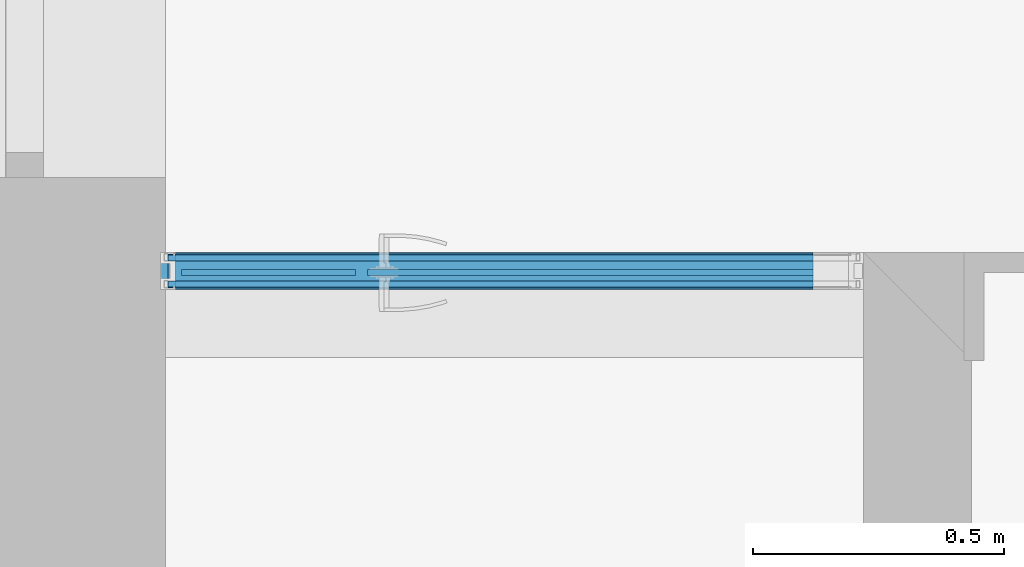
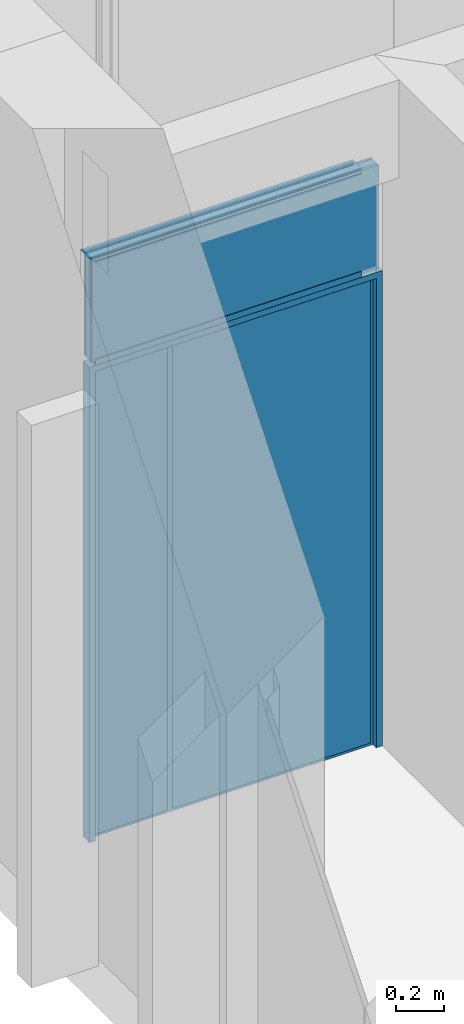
# One storey, part 58 of 89: 8 building element parts, 5 elements without a shape of their own.
"""IFC2X3 building model written with IfcOpenShell, lengths in millimetres."""

from ifc_helpers import new_model, entity, si_unit, converted_unit, derived_unit, money_unit, direction, frame, origin_with_axes, place, context, subcontext, project, spatial, faceted_brep, material, type_object, element, aggregate, save


model = new_model("IFC2X3")

# Units and contexts
model_context = context("Model", 3, precision=0.01, world=origin_with_axes(), true_north=direction((0.0, 1.0)))
body_context = subcontext(model_context, "Body", "Model", "MODEL_VIEW")
ifc_project = project(units=[si_unit("LENGTHUNIT", "METRE", prefix="MILLI"), si_unit("AREAUNIT", "SQUARE_METRE"), si_unit("VOLUMEUNIT", "CUBIC_METRE"), converted_unit("PLANEANGLEUNIT", "DEGREE", entity("IfcPlaneAngleMeasure", 0.0174532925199), si_unit("PLANEANGLEUNIT", "RADIAN"), dimensions=[0, 0, 0, 0, 0, 0, 0]), si_unit("SOLIDANGLEUNIT", "STERADIAN"), money_unit("EUR"), converted_unit("TIMEUNIT", "Year", entity("IfcTimeMeasure", 31556926.0), si_unit("TIMEUNIT", "SECOND"), dimensions=[0, 0, 1, 0, 0, 0, 0]), si_unit("MASSUNIT", "GRAM", prefix="KILO"), si_unit("THERMODYNAMICTEMPERATUREUNIT", "DEGREE_CELSIUS"), si_unit("LUMINOUSINTENSITYUNIT", "LUMEN"), si_unit("ENERGYUNIT", "JOULE", prefix="MEGA"), derived_unit("THERMALCONDUCTANCEUNIT", [(si_unit("POWERUNIT", "WATT"), 1), (si_unit("LENGTHUNIT", "METRE"), -1), (si_unit("THERMODYNAMICTEMPERATUREUNIT", "KELVIN"), -1)]), derived_unit("SPECIFICHEATCAPACITYUNIT", [(si_unit("ENERGYUNIT", "JOULE"), 1), (si_unit("MASSUNIT", "GRAM", prefix="KILO"), -1), (si_unit("THERMODYNAMICTEMPERATUREUNIT", "KELVIN"), -1)]), derived_unit("MASSDENSITYUNIT", [(si_unit("MASSUNIT", "GRAM", prefix="KILO"), 1), (si_unit("VOLUMEUNIT", "CUBIC_METRE"), -1)])], contexts=[model_context])

# Site, building, storey
site_placement = place(None, origin_with_axes())
site = spatial("IfcSite", under=ifc_project, at=site_placement, Name="Puškini 31, Narva", CompositionType="ELEMENT")
building_placement = place(site_placement, origin_with_axes())
building = spatial("IfcBuilding", under=site, at=building_placement, Name="Narva Riigigümnaasium", CompositionType="ELEMENT")
storey_placement = place(building_placement, frame((0.0, 0.0, -3300.0), z_axis=(0.0, 0.0, 1.0), x_axis=(1.0, 0.0, 0.0)))
storey = spatial("IfcBuildingStorey", under=building, at=storey_placement, Name="1.korrus -3.3", CompositionType="ELEMENT", Elevation=-3300.0)

# Curtain wall, plate, building element parts, door, members
curtain_wall_type = type_object("IfcCurtainWallType", Name="Curtain Wall Type", PredefinedType="NOTDEFINED")
curtain_wall_placement = place(storey_placement, frame((38300.0000003, 240678.000001, -3.3467437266e-05), z_axis=(0.0, 0.0, 1.0), x_axis=(1.0, 0.0, 0.0)))
curtain_wall = element("IfcCurtainWall", 1, at=curtain_wall_placement, inside=storey, type_object=curtain_wall_type, Name="G-SKLF-56")
plate_type = type_object("IfcPlateType", Name="Siseklaasfassaad - Klaas-Doubleline30 1285 x 520 x 17", PredefinedType="CURTAIN_PANEL")
plate_placement = place(curtain_wall_placement, frame((0.0, 0.0, 2675.00003347), z_axis=(0.0, 0.0, 1.0), x_axis=(-1.0, 0.0, 0.0)))
plate = element("IfcPlate", 2, at=plate_placement, type_object=plate_type, Name="Panel-Siseklaasf-021", ObjectType="CURTAIN_PANEL")
ifc_material_1 = material(Name="VKR-05_Klaas")
building_element_part_1_placement = place(plate_placement, origin_with_axes())
building_element_part_1 = element("IfcBuildingElementPart", 3, at=building_element_part_1_placement, material=ifc_material_1, Name="VKR-05_Klaas", context=body_context, shape_type="Brep", body=[
    faceted_brep([(-484.99999702, 37.0, 259.999988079), (-484.99999702, 25.0, 259.999988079), (884.99999702, 25.0, 259.999988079), (884.99999702, 37.0, 259.999988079), (-484.99999702, 37.0, -259.99999702), (-484.99999702, 25.0, -259.99999702), (884.99999702, 25.0, -259.99999702), (884.99999702, 37.0, -259.99999702)], [[[0, 1, 2, 3]], [[4, 5, 1, 0]], [[1, 5, 6, 2]], [[3, 2, 6, 7]], [[0, 3, 7, 4]], [[7, 6, 5, 4]]]),
    faceted_brep([(-484.99999702, -15.0, 259.999988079), (-484.99999702, -27.0, 259.999988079), (884.99999702, -27.0, 259.999988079), (884.99999702, -15.0, 259.999988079), (-484.99999702, -15.0, -259.99999702), (-484.99999702, -27.0, -259.99999702), (884.99999702, -27.0, -259.99999702), (884.99999702, -15.0, -259.99999702)], [[[0, 1, 2, 3]], [[4, 5, 1, 0]], [[1, 5, 6, 2]], [[3, 2, 6, 7]], [[0, 3, 7, 4]], [[7, 6, 5, 4]]]),
])
ifc_material_2 = material(Name="Õhkvahe")
building_element_part_2_placement = place(plate_placement, origin_with_axes())
building_element_part_2 = element("IfcBuildingElementPart", 4, at=building_element_part_2_placement, material=ifc_material_2, Name="Õhkvahe", context=body_context, shape_type="Brep", body=[
    faceted_brep([(-484.99999702, 25.0, 259.999988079), (-484.99999702, -15.0, 259.999988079), (884.99999702, -15.0, 259.999988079), (884.99999702, 25.0, 259.999988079), (-484.99999702, 25.0, -259.99999702), (-484.99999702, -15.0, -259.99999702), (884.99999702, -15.0, -259.99999702), (884.99999702, 25.0, -259.99999702)], [[[0, 1, 2, 3]], [[4, 5, 1, 0]], [[1, 5, 6, 2]], [[3, 2, 6, 7]], [[0, 3, 7, 4]], [[7, 6, 5, 4]]]),
])
aggregate(plate, [building_element_part_1, building_element_part_2])
door_style = type_object("IfcDoorStyle", Name="1300 x 2385 x -5", ConstructionType="NOTDEFINED", OperationType="NOTDEFINED", ParameterTakesPrecedence=False, Sizeable=False)
door_placement = place(curtain_wall_placement, frame((0.0, 0.0, 1200.00001673), z_axis=(0.0, 0.0, 1.0), x_axis=(-1.0, 0.0, 0.0)))
door = element("IfcDoor", 5, at=door_placement, type_object=door_style, Name="G-SKLF-59-U1", ObjectType="DOOR")
ifc_material_3 = material(Name="ET-04_Alumiinium")
building_element_part_3_placement = place(door_placement, origin_with_axes())
building_element_part_3 = element("IfcBuildingElementPart", 6, at=building_element_part_3_placement, material=ifc_material_3, Name="ET-04_Alumiinium", context=body_context, shape_type="Brep", body=[
    faceted_brep([(-500.0, 2.5, -1200.00001673), (-500.0, -11.5, -1200.00001673), (-500.0, -11.5, 1200.00001673), (-500.0, 2.5, 1200.00001673), (-462.0, 2.5, -1200.00001673), (-462.0, -11.5, -1200.00001673), (-462.0, -11.5, 1162.00001673), (-462.0, 2.5, 1162.00001673)], [[[0, 1, 2, 3]], [[4, 5, 1, 0]], [[1, 5, 6, 2]], [[3, 2, 6, 7]], [[0, 3, 7, 4]], [[7, 6, 5, 4]]]),
    faceted_brep([(900.0, 2.5, 1200.00001673), (900.0, -11.5, 1200.00001673), (862.0, -11.5, 1162.00001673), (862.0, 2.5, 1162.00001673), (-500.0, 2.5, 1200.00001673), (-500.0, -11.5, 1200.00001673), (-462.0, -11.5, 1162.00001673), (-462.0, 2.5, 1162.00001673)], [[[0, 1, 2, 3]], [[4, 5, 1, 0]], [[1, 5, 6, 2]], [[3, 2, 6, 7]], [[0, 3, 7, 4]], [[7, 6, 5, 4]]]),
    faceted_brep([(900.0, 2.5, -1200.00001673), (900.0, -11.5, -1200.00001673), (862.0, -11.5, -1200.00001673), (862.0, 2.5, -1200.00001673), (900.0, 2.5, 1200.00001673), (900.0, -11.5, 1200.00001673), (862.0, -11.5, 1162.00001673), (862.0, 2.5, 1162.00001673)], [[[0, 1, 2, 3]], [[4, 5, 1, 0]], [[1, 5, 6, 2]], [[3, 2, 6, 7]], [[0, 3, 7, 4]], [[7, 6, 5, 4]]]),
    faceted_brep([(-500.0, 42.5, -1200.00001673), (-500.0, 2.5, -1200.00001673), (-500.0, 2.5, 1200.00001673), (-500.0, 42.5, 1200.00001673), (-470.0, 42.5, -1200.00001673), (-470.0, 2.5, -1200.00001673), (-470.0, 2.5, 1170.00001673), (-470.0, 42.5, 1170.00001673)], [[[0, 1, 2, 3]], [[4, 5, 1, 0]], [[1, 5, 6, 2]], [[3, 2, 6, 7]], [[0, 3, 7, 4]], [[7, 6, 5, 4]]]),
    faceted_brep([(900.0, 42.5, 1200.00001673), (900.0, 2.5, 1200.00001673), (870.0, 2.5, 1170.00001673), (870.0, 42.5, 1170.00001673), (-500.0, 42.5, 1200.00001673), (-500.0, 2.5, 1200.00001673), (-470.0, 2.5, 1170.00001673), (-470.0, 42.5, 1170.00001673)], [[[0, 1, 2, 3]], [[4, 5, 1, 0]], [[1, 5, 6, 2]], [[3, 2, 6, 7]], [[0, 3, 7, 4]], [[7, 6, 5, 4]]]),
    faceted_brep([(900.0, 42.5, -1200.00001673), (900.0, 2.5, -1200.00001673), (870.0, 2.5, -1200.00001673), (870.0, 42.5, -1200.00001673), (900.0, 42.5, 1200.00001673), (900.0, 2.5, 1200.00001673), (870.0, 2.5, 1170.00001673), (870.0, 42.5, 1170.00001673)], [[[0, 1, 2, 3]], [[4, 5, 1, 0]], [[1, 5, 6, 2]], [[3, 2, 6, 7]], [[0, 3, 7, 4]], [[7, 6, 5, 4]]]),
    faceted_brep([(-500.0, 2.5, 1200.00001673), (-500.0, -2.5, 1200.00001673), (900.0, -2.5, 1200.00001673), (900.0, 2.5, 1200.00001673), (-499.99998376, 2.5, 1185.00001652), (-499.99998376, -2.5, 1185.00001652), (900.0, -2.5, 1185.00001652), (900.0, 2.5, 1185.00001652)], [[[0, 1, 2, 3]], [[4, 5, 1, 0]], [[1, 5, 6, 2]], [[3, 2, 6, 7]], [[0, 3, 7, 4]], [[7, 6, 5, 4]]]),
    faceted_brep([(858.0, 2.5, -1188.00001673), (858.0, 2.5, 1158.00001673), (858.0, 14.5, 1158.00001673), (858.0, 14.5, -1188.00001673), (870.0, 2.5, -1200.00001673), (870.0, 2.5, 1170.00001673), (870.0, 14.5, 1170.00001673), (870.0, 14.5, -1200.00001673)], [[[0, 1, 2, 3]], [[0, 4, 5, 1]], [[1, 5, 6, 2]], [[3, 2, 6, 7]], [[4, 0, 3, 7]], [[5, 4, 7, 6]]]),
    faceted_brep([(500.0, 2.5, -1200.00001673), (500.0, 2.5, 1170.00001673), (500.0, 14.5, 1170.00001673), (500.0, 14.5, -1200.00001673), (512.0, 2.5, -1188.00001673), (512.0, 2.5, 1158.00001673), (512.0, 14.5, 1158.00001673), (512.0, 14.5, -1188.00001673)], [[[0, 1, 2, 3]], [[0, 4, 5, 1]], [[1, 5, 6, 2]], [[3, 2, 6, 7]], [[4, 0, 3, 7]], [[5, 4, 7, 6]]]),
    faceted_brep([(500.0, 2.5, -1200.00001673), (512.0, 2.5, -1188.00001673), (512.0, 14.5, -1188.00001673), (500.0, 14.5, -1200.00001673), (870.0, 2.5, -1200.00001673), (858.0, 2.5, -1188.00001673), (858.0, 14.5, -1188.00001673), (870.0, 14.5, -1200.00001673)], [[[0, 1, 2, 3]], [[0, 4, 5, 1]], [[1, 5, 6, 2]], [[3, 2, 6, 7]], [[4, 0, 3, 7]], [[5, 4, 7, 6]]]),
    faceted_brep([(870.0, 2.5, 1170.00001673), (858.0, 2.5, 1158.00001673), (858.0, 14.5, 1158.00001673), (870.0, 14.5, 1170.00001673), (500.0, 2.5, 1170.00001673), (512.0, 2.5, 1158.00001673), (512.0, 14.5, 1158.00001673), (500.0, 14.5, 1170.00001673)], [[[0, 1, 2, 3]], [[0, 4, 5, 1]], [[1, 5, 6, 2]], [[3, 2, 6, 7]], [[4, 0, 3, 7]], [[5, 4, 7, 6]]]),
    faceted_brep([(488.0, 2.5, -1188.00001673), (488.0, 2.5, 1158.00001673), (488.0, 14.5, 1158.00001673), (488.0, 14.5, -1188.00001673), (500.0, 2.5, -1200.00001673), (500.0, 2.5, 1170.00001673), (500.0, 14.5, 1170.00001673), (500.0, 14.5, -1200.00001673)], [[[0, 1, 2, 3]], [[0, 4, 5, 1]], [[1, 5, 6, 2]], [[3, 2, 6, 7]], [[4, 0, 3, 7]], [[5, 4, 7, 6]]]),
    faceted_brep([(-470.0, 2.5, -1200.00001673), (-470.0, 2.5, 1170.00001673), (-470.0, 14.5, 1170.00001673), (-470.0, 14.5, -1200.00001673), (-458.0, 2.5, -1188.00001673), (-458.0, 2.5, 1158.00001673), (-458.0, 14.5, 1158.00001673), (-458.0, 14.5, -1188.00001673)], [[[0, 1, 2, 3]], [[0, 4, 5, 1]], [[1, 5, 6, 2]], [[3, 2, 6, 7]], [[4, 0, 3, 7]], [[5, 4, 7, 6]]]),
    faceted_brep([(-470.0, 2.5, -1200.00001673), (-458.0, 2.5, -1188.00001673), (-458.0, 14.5, -1188.00001673), (-470.0, 14.5, -1200.00001673), (500.0, 2.5, -1200.00001673), (488.0, 2.5, -1188.00001673), (488.0, 14.5, -1188.00001673), (500.0, 14.5, -1200.00001673)], [[[0, 1, 2, 3]], [[0, 4, 5, 1]], [[1, 5, 6, 2]], [[3, 2, 6, 7]], [[4, 0, 3, 7]], [[5, 4, 7, 6]]]),
    faceted_brep([(500.0, 2.5, 1170.00001673), (488.0, 2.5, 1158.00001673), (488.0, 14.5, 1158.00001673), (500.0, 14.5, 1170.00001673), (-470.0, 2.5, 1170.00001673), (-458.0, 2.5, 1158.00001673), (-458.0, 14.5, 1158.00001673), (-470.0, 14.5, 1170.00001673)], [[[0, 1, 2, 3]], [[0, 4, 5, 1]], [[1, 5, 6, 2]], [[3, 2, 6, 7]], [[4, 0, 3, 7]], [[5, 4, 7, 6]]]),
])
building_element_part_4_placement = place(door_placement, origin_with_axes())
building_element_part_4 = element("IfcBuildingElementPart", 7, at=building_element_part_4_placement, material=ifc_material_1, Name="VKR-05_Klaas", context=body_context, shape_type="Brep", body=[
    faceted_brep([(858.0, 2.5, -1188.00001673), (512.0, 2.5, -1188.00001673), (512.0, 14.5, -1188.00001673), (858.0, 14.5, -1188.00001673), (858.0, 2.5, 1158.00001673), (512.0, 2.5, 1158.00001673), (512.0, 14.5, 1158.00001673), (858.0, 14.5, 1158.00001673)], [[[0, 1, 2, 3]], [[0, 4, 5, 1]], [[1, 5, 6, 2]], [[3, 2, 6, 7]], [[4, 0, 3, 7]], [[5, 4, 7, 6]]]),
    faceted_brep([(488.0, 2.5, -1188.00001673), (-458.0, 2.5, -1188.00001673), (-458.0, 14.5, -1188.00001673), (488.0, 14.5, -1188.00001673), (488.0, 2.5, 1158.00001673), (-458.0, 2.5, 1158.00001673), (-458.0, 14.5, 1158.00001673), (488.0, 14.5, 1158.00001673)], [[[0, 1, 2, 3]], [[0, 4, 5, 1]], [[1, 5, 6, 2]], [[3, 2, 6, 7]], [[4, 0, 3, 7]], [[5, 4, 7, 6]]]),
])
aggregate(door, [building_element_part_3, building_element_part_4])
member_type_1 = type_object("IfcMemberType", Name="Boundary Frame 30 x 42", PredefinedType="MULLION")
member_1_placement = place(curtain_wall_placement, frame((-900.0, 0.0, 2950.00003347), z_axis=(1.0, 0.0, 0.0), x_axis=(0.0, 0.0, 1.0)))
member_1 = element("IfcMember", 8, at=member_1_placement, type_object=member_type_1, Name="SKLF-24-raam", ObjectType="MULLION")
ifc_material_4 = material(Name="Klaasvill")
building_element_part_5_placement = place(member_1_placement, origin_with_axes())
building_element_part_5 = element("IfcBuildingElementPart", 9, at=building_element_part_5_placement, material=ifc_material_4, Name="Klaasvill", context=body_context, shape_type="Brep", body=[
    faceted_brep([(-13.8499999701, -15.000000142, 13.8499999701), (-13.8499999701, -15.000000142, 1300.0), (-7.49999990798, -15.000000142, 1300.0), (-7.49999990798, -15.000000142, 7.49999990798), (-13.8499999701, -29.0161444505, 13.8499999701), (-13.8499999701, -29.0161444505, 1300.0), (-7.49999990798, -29.0161444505, 1300.0), (-7.49999990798, -29.0161444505, 7.49999990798)], [[[0, 1, 2, 3]], [[4, 5, 1, 0]], [[2, 1, 5, 6]], [[3, 2, 6, 7]], [[3, 7, 4, 0]], [[7, 6, 5, 4]]]),
    faceted_brep([(-25.004489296, -27.0307503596, 25.004489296), (-25.004489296, -27.0307503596, 1300.0), (-24.987414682, -29.0161444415, 1300.0), (-24.987414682, -29.0161444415, 24.987414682), (-25.742237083, -26.2930025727, 25.742237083), (-25.742237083, -26.2930025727, 1300.0), (-26.7500193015, -26.0229681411, 1300.0), (-27.75780152, -26.2930025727, 1300.0), (-28.4955493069, -27.0307503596, 1300.0), (-28.7655837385, -28.0385325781, 1300.0), (-28.5126239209, -29.0161444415, 1300.0), (-28.5126239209, -29.0161444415, 28.5126239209), (-28.7655837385, -28.0385325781, 28.7655837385), (-28.4955493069, -27.0307503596, 28.4955493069), (-27.75780152, -26.2930025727, 27.75780152), (-26.7500193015, -26.0229681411, 26.7500193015)], [[[0, 1, 2, 3]], [[4, 5, 1, 0]], [[2, 1, 5, 6, 7, 8, 9, 10]], [[3, 2, 10, 11]], [[3, 11, 12, 13, 14, 15, 4, 0]], [[15, 6, 5, 4]], [[14, 7, 6, 15]], [[13, 8, 7, 14]], [[12, 9, 8, 13]], [[11, 10, 9, 12]]]),
    faceted_brep([(-7.49999990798, 39.0161445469, 7.49999990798), (-7.49999990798, 39.0161445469, 1300.0), (-7.49999990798, 24.9999997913, 1300.0), (-7.49999990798, 24.9999997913, 7.49999990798), (-13.8499999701, 39.0161445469, 13.8499999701), (-13.8499999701, 39.0161445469, 1300.0), (-13.8499999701, 24.9999997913, 1300.0), (-13.8499999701, 24.9999997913, 13.8499999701)], [[[0, 1, 2, 3]], [[4, 5, 1, 0]], [[2, 1, 5, 6]], [[3, 2, 6, 7]], [[3, 7, 4, 0]], [[7, 6, 5, 4]]]),
    faceted_brep([(-24.987414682, 39.0161444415, 24.987414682), (-24.987414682, 39.0161444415, 1300.0), (-25.004489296, 37.0307503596, 1300.0), (-25.004489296, 37.0307503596, 25.004489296), (-28.5126239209, 39.0161444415, 28.5126239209), (-28.5126239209, 39.0161444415, 1300.0), (-28.7655837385, 38.0385325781, 1300.0), (-28.4955493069, 37.0307503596, 1300.0), (-27.75780152, 36.2930025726, 1300.0), (-26.7500193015, 36.0229681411, 1300.0), (-25.742237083, 36.2930025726, 1300.0), (-25.742237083, 36.2930025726, 25.742237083), (-26.7500193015, 36.0229681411, 26.7500193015), (-27.75780152, 36.2930025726, 27.75780152), (-28.4955493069, 37.0307503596, 28.4955493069), (-28.7655837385, 38.0385325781, 28.7655837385)], [[[0, 1, 2, 3]], [[4, 5, 1, 0]], [[2, 1, 5, 6, 7, 8, 9, 10]], [[3, 2, 10, 11]], [[3, 11, 12, 13, 14, 15, 4, 0]], [[15, 6, 5, 4]], [[14, 7, 6, 15]], [[13, 8, 7, 14]], [[12, 9, 8, 13]], [[11, 10, 9, 12]]]),
])
ifc_material_5 = material(Name="Teras RAL7012")
building_element_part_6_placement = place(member_1_placement, origin_with_axes())
building_element_part_6 = element("IfcBuildingElementPart", 10, at=building_element_part_6_placement, material=ifc_material_5, Name="Teras RAL7012", context=body_context, shape_type="Brep", body=[
    faceted_brep([(-29.5999996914, 22.0000000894, 29.5999996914), (-29.5999996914, 22.0000000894, 1300.0), (0.0, 22.0000000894, 1300.0), (0.0, 22.0000000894, 0.0), (-29.5999996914, -12.0000000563, 29.5999996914), (-29.5999996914, -12.0000000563, 1300.0), (0.0, -12.0000000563, 1300.0), (-1.9999999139, -10.0000001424, 1300.0), (-18.7999996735, -10.0000001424, 1300.0), (-18.7999996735, 20.0000001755, 1300.0), (-1.9999999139, 20.0000001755, 1300.0), (0.0, -12.0000000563, 0.0), (-1.9999999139, -10.0000001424, 1.99999991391), (-1.9999999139, 20.0000001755, 1.99999991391), (-18.7999996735, 20.0000001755, 18.7999996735), (-18.7999996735, -10.0000001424, 18.7999996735)], [[[0, 1, 2, 3]], [[4, 5, 1, 0]], [[2, 1, 5, 6], [7, 8, 9, 10]], [[3, 2, 6, 11]], [[3, 11, 4, 0], [12, 13, 14, 15]], [[11, 6, 5, 4]], [[15, 8, 7, 12]], [[14, 9, 8, 15]], [[13, 10, 9, 14]], [[12, 7, 10, 13]]]),
    faceted_brep([(-29.5999996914, -12.0000000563, 29.5999996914), (-29.5999996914, -12.0000000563, 1300.0), (0.0, -12.0, 1300.0), (0.0, -12.0, 0.0), (-30.0000193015, -12.0, 30.0000193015), (-30.0000193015, -12.0, 1300.0), (-30.0000193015, -15.0, 1300.0), (-13.8499999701, -15.000000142, 1300.0), (-7.49999999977, -15.0, 1300.0), (-7.49999999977, -29.0161444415, 1300.0), (-13.8499999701, -29.0161444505, 1300.0), (-24.987414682, -29.0161444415, 1300.0), (-28.5126239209, -29.0161444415, 1300.0), (-30.0000193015, -29.0161444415, 1300.0), (-30.0000193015, -32.0, 1300.0), (0.0, -32.0, 1300.0), (0.0, -32.0, 0.0), (-30.0000193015, -32.0, 30.0000193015), (-30.0000193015, -29.0161444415, 30.0000193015), (-28.5126239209, -29.0161444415, 28.5126239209), (-24.987414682, -29.0161444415, 24.987414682), (-13.8499999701, -29.0161444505, 13.8499999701), (-7.49999999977, -29.0161444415, 7.49999999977), (-7.49999999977, -15.0, 7.49999999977), (-13.8499999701, -15.000000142, 13.8499999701), (-30.0000193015, -15.0, 30.0000193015)], [[[0, 1, 2, 3]], [[4, 5, 1, 0]], [[2, 1, 5, 6, 7, 8, 9, 10, 11, 12, 13, 14, 15]], [[3, 2, 15, 16]], [[3, 16, 17, 18, 19, 20, 21, 22, 23, 24, 25, 4, 0]], [[25, 6, 5, 4]], [[24, 7, 6, 25]], [[23, 8, 7, 24]], [[22, 9, 8, 23]], [[21, 10, 9, 22]], [[20, 11, 10, 21]], [[19, 12, 11, 20]], [[18, 13, 12, 19]], [[17, 14, 13, 18]], [[16, 15, 14, 17]]]),
    faceted_brep([(0.0, 42.0, 0.0), (0.0, 42.0, 1300.0), (0.0, 22.0, 1300.0), (0.0, 22.0, 0.0), (-30.0000193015, 42.0, 30.0000193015), (-30.0000193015, 42.0, 1300.0), (-30.0000193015, 39.0161444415, 1300.0), (-28.5126239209, 39.0161444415, 1300.0), (-24.987414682, 39.0161444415, 1300.0), (-13.8499999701, 39.0161445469, 1300.0), (-7.49999999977, 39.0161444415, 1300.0), (-7.49999999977, 25.0, 1300.0), (-13.8499999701, 24.9999997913, 1300.0), (-30.0000193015, 25.0, 1300.0), (-30.0000193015, 22.0, 1300.0), (-29.5999996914, 22.0000000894, 1300.0), (-29.5999996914, 22.0000000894, 29.5999996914), (-30.0000193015, 22.0, 30.0000193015), (-30.0000193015, 25.0, 30.0000193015), (-13.8499999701, 24.9999997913, 13.8499999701), (-7.49999999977, 25.0, 7.49999999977), (-7.49999999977, 39.0161444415, 7.49999999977), (-13.8499999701, 39.0161445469, 13.8499999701), (-24.987414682, 39.0161444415, 24.987414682), (-28.5126239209, 39.0161444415, 28.5126239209), (-30.0000193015, 39.0161444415, 30.0000193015)], [[[0, 1, 2, 3]], [[4, 5, 1, 0]], [[2, 1, 5, 6, 7, 8, 9, 10, 11, 12, 13, 14, 15]], [[3, 2, 15, 16]], [[3, 16, 17, 18, 19, 20, 21, 22, 23, 24, 25, 4, 0]], [[25, 6, 5, 4]], [[24, 7, 6, 25]], [[23, 8, 7, 24]], [[22, 9, 8, 23]], [[21, 10, 9, 22]], [[20, 11, 10, 21]], [[19, 12, 11, 20]], [[18, 13, 12, 19]], [[17, 14, 13, 18]], [[16, 15, 14, 17]]]),
])
aggregate(member_1, [building_element_part_5, building_element_part_6])
member_type_2 = type_object("IfcMemberType", Name="Siseklaasfassaad-Servaprofiil-Doubleline30 30 x 42", PredefinedType="MULLION")
member_2_placement = place(curtain_wall_placement, frame((-900.0, 0.0, 2400.00003347), z_axis=(1.0, 0.0, 0.0), x_axis=(0.0, 0.0, 1.0)))
member_2 = element("IfcMember", 11, at=member_2_placement, type_object=member_type_2, Name="Frame-Siseklaasf-125", ObjectType="MULLION")
aggregate(curtain_wall, [door, member_1, member_2, plate])
building_element_part_7_placement = place(member_2_placement, origin_with_axes())
building_element_part_7 = element("IfcBuildingElementPart", 12, at=building_element_part_7_placement, material=ifc_material_4, Name="Klaasvill", context=body_context, shape_type="Brep", body=[
    faceted_brep([(13.8499999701, -15.000000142, 30.0000193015), (7.49999990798, -15.000000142, 30.0000193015), (7.49999990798, -15.000000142, 1300.0), (13.8499999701, -15.000000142, 1300.0), (13.8499999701, -29.0161444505, 30.0000193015), (7.49999990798, -29.0161444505, 30.0000193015), (7.49999990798, -29.0161444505, 1300.0), (13.8499999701, -29.0161444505, 1300.0)], [[[0, 1, 2, 3]], [[1, 0, 4, 5]], [[1, 5, 6, 2]], [[2, 6, 7, 3]], [[4, 0, 3, 7]], [[5, 4, 7, 6]]]),
    faceted_brep([(25.004489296, -27.0307503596, 30.0000193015), (24.987414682, -29.0161444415, 30.0000193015), (24.987414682, -29.0161444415, 1300.0), (25.004489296, -27.0307503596, 1300.0), (25.742237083, -26.2930025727, 30.0000193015), (26.7500193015, -26.0229681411, 30.0000193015), (27.75780152, -26.2930025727, 30.0000193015), (28.4955493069, -27.0307503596, 30.0000193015), (28.7655837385, -28.0385325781, 30.0000193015), (28.5126239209, -29.0161444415, 30.0000193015), (28.5126239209, -29.0161444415, 1300.0), (28.7655837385, -28.0385325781, 1300.0), (28.4955493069, -27.0307503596, 1300.0), (27.75780152, -26.2930025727, 1300.0), (26.7500193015, -26.0229681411, 1300.0), (25.742237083, -26.2930025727, 1300.0)], [[[0, 1, 2, 3]], [[1, 0, 4, 5, 6, 7, 8, 9]], [[1, 9, 10, 2]], [[2, 10, 11, 12, 13, 14, 15, 3]], [[4, 0, 3, 15]], [[5, 4, 15, 14]], [[6, 5, 14, 13]], [[7, 6, 13, 12]], [[8, 7, 12, 11]], [[9, 8, 11, 10]]]),
    faceted_brep([(7.49999990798, 39.0161445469, 30.0000193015), (7.49999990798, 24.9999997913, 30.0000193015), (7.49999990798, 24.9999997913, 1300.0), (7.49999990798, 39.0161445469, 1300.0), (13.8499999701, 39.0161445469, 30.0000193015), (13.8499999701, 24.9999997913, 30.0000193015), (13.8499999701, 24.9999997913, 1300.0), (13.8499999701, 39.0161445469, 1300.0)], [[[0, 1, 2, 3]], [[1, 0, 4, 5]], [[1, 5, 6, 2]], [[2, 6, 7, 3]], [[4, 0, 3, 7]], [[5, 4, 7, 6]]]),
    faceted_brep([(24.987414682, 39.0161444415, 30.0000193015), (25.004489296, 37.0307503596, 30.0000193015), (25.004489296, 37.0307503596, 1300.0), (24.987414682, 39.0161444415, 1300.0), (28.5126239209, 39.0161444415, 30.0000193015), (28.7655837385, 38.0385325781, 30.0000193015), (28.4955493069, 37.0307503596, 30.0000193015), (27.75780152, 36.2930025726, 30.0000193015), (26.7500193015, 36.0229681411, 30.0000193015), (25.742237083, 36.2930025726, 30.0000193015), (25.742237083, 36.2930025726, 1300.0), (26.7500193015, 36.0229681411, 1300.0), (27.75780152, 36.2930025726, 1300.0), (28.4955493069, 37.0307503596, 1300.0), (28.7655837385, 38.0385325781, 1300.0), (28.5126239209, 39.0161444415, 1300.0)], [[[0, 1, 2, 3]], [[1, 0, 4, 5, 6, 7, 8, 9]], [[1, 9, 10, 2]], [[2, 10, 11, 12, 13, 14, 15, 3]], [[4, 0, 3, 15]], [[5, 4, 15, 14]], [[6, 5, 14, 13]], [[7, 6, 13, 12]], [[8, 7, 12, 11]], [[9, 8, 11, 10]]]),
])
building_element_part_8_placement = place(member_2_placement, origin_with_axes())
building_element_part_8 = element("IfcBuildingElementPart", 13, at=building_element_part_8_placement, material=ifc_material_5, Name="Teras RAL7012", context=body_context, shape_type="Brep", body=[
    faceted_brep([(29.5999996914, 22.0000000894, 30.0000193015), (0.0, 22.0000000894, 30.0000193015), (0.0, 22.0000000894, 1300.0), (29.5999996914, 22.0000000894, 1300.0), (29.5999996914, -12.0000000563, 30.0000193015), (0.0, -12.0000000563, 30.0000193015), (1.9999999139, -10.0000001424, 30.0000193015), (18.7999996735, -10.0000001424, 30.0000193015), (18.7999996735, 20.0000001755, 30.0000193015), (1.9999999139, 20.0000001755, 30.0000193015), (0.0, -12.0000000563, 1300.0), (29.5999996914, -12.0000000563, 1300.0), (1.9999999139, -10.0000001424, 1300.0), (1.9999999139, 20.0000001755, 1300.0), (18.7999996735, 20.0000001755, 1300.0), (18.7999996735, -10.0000001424, 1300.0)], [[[0, 1, 2, 3]], [[1, 0, 4, 5], [6, 7, 8, 9]], [[1, 5, 10, 2]], [[2, 10, 11, 3], [12, 13, 14, 15]], [[4, 0, 3, 11]], [[5, 4, 11, 10]], [[7, 6, 12, 15]], [[8, 7, 15, 14]], [[9, 8, 14, 13]], [[6, 9, 13, 12]]]),
    faceted_brep([(29.5999996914, -12.0000000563, 30.0000193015), (0.0, -12.0, 30.0000193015), (0.0, -12.0, 1300.0), (29.5999996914, -12.0000000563, 1300.0), (30.0000193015, -12.0, 30.0000193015), (30.0000193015, -15.0, 30.0000193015), (13.8499999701, -15.000000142, 30.0000193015), (7.49999999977, -15.0, 30.0000193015), (7.49999999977, -29.0161444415, 30.0000193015), (13.8499999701, -29.0161444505, 30.0000193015), (24.987414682, -29.0161444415, 30.0000193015), (28.5126239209, -29.0161444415, 30.0000193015), (30.0000193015, -29.0161444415, 30.0000193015), (30.0000193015, -32.0, 30.0000193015), (0.0, -32.0, 30.0000193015), (0.0, -32.0, 1300.0), (30.0000193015, -32.0, 1300.0), (30.0000193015, -29.0161444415, 1300.0), (28.5126239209, -29.0161444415, 1300.0), (24.987414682, -29.0161444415, 1300.0), (13.8499999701, -29.0161444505, 1300.0), (7.49999999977, -29.0161444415, 1300.0), (7.49999999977, -15.0, 1300.0), (13.8499999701, -15.000000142, 1300.0), (30.0000193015, -15.0, 1300.0), (30.0000193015, -12.0, 1300.0)], [[[0, 1, 2, 3]], [[1, 0, 4, 5, 6, 7, 8, 9, 10, 11, 12, 13, 14]], [[1, 14, 15, 2]], [[2, 15, 16, 17, 18, 19, 20, 21, 22, 23, 24, 25, 3]], [[4, 0, 3, 25]], [[5, 4, 25, 24]], [[6, 5, 24, 23]], [[7, 6, 23, 22]], [[8, 7, 22, 21]], [[9, 8, 21, 20]], [[10, 9, 20, 19]], [[11, 10, 19, 18]], [[12, 11, 18, 17]], [[13, 12, 17, 16]], [[14, 13, 16, 15]]]),
    faceted_brep([(0.0, 42.0, 30.0000193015), (0.0, 22.0, 30.0000193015), (0.0, 22.0, 1300.0), (0.0, 42.0, 1300.0), (30.0000193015, 42.0, 30.0000193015), (30.0000193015, 39.0161444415, 30.0000193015), (28.5126239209, 39.0161444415, 30.0000193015), (24.987414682, 39.0161444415, 30.0000193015), (13.8499999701, 39.0161445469, 30.0000193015), (7.49999999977, 39.0161444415, 30.0000193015), (7.49999999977, 25.0, 30.0000193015), (13.8499999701, 24.9999997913, 30.0000193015), (30.0000193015, 25.0, 30.0000193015), (30.0000193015, 22.0, 30.0000193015), (29.5999996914, 22.0000000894, 30.0000193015), (29.5999996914, 22.0000000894, 1300.0), (30.0000193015, 22.0, 1300.0), (30.0000193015, 25.0, 1300.0), (13.8499999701, 24.9999997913, 1300.0), (7.49999999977, 25.0, 1300.0), (7.49999999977, 39.0161444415, 1300.0), (13.8499999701, 39.0161445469, 1300.0), (24.987414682, 39.0161444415, 1300.0), (28.5126239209, 39.0161444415, 1300.0), (30.0000193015, 39.0161444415, 1300.0), (30.0000193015, 42.0, 1300.0)], [[[0, 1, 2, 3]], [[1, 0, 4, 5, 6, 7, 8, 9, 10, 11, 12, 13, 14]], [[1, 14, 15, 2]], [[2, 15, 16, 17, 18, 19, 20, 21, 22, 23, 24, 25, 3]], [[4, 0, 3, 25]], [[5, 4, 25, 24]], [[6, 5, 24, 23]], [[7, 6, 23, 22]], [[8, 7, 22, 21]], [[9, 8, 21, 20]], [[10, 9, 20, 19]], [[11, 10, 19, 18]], [[12, 11, 18, 17]], [[13, 12, 17, 16]], [[14, 13, 16, 15]]]),
])
aggregate(member_2, [building_element_part_7, building_element_part_8])

save(model, "model.ifc")
